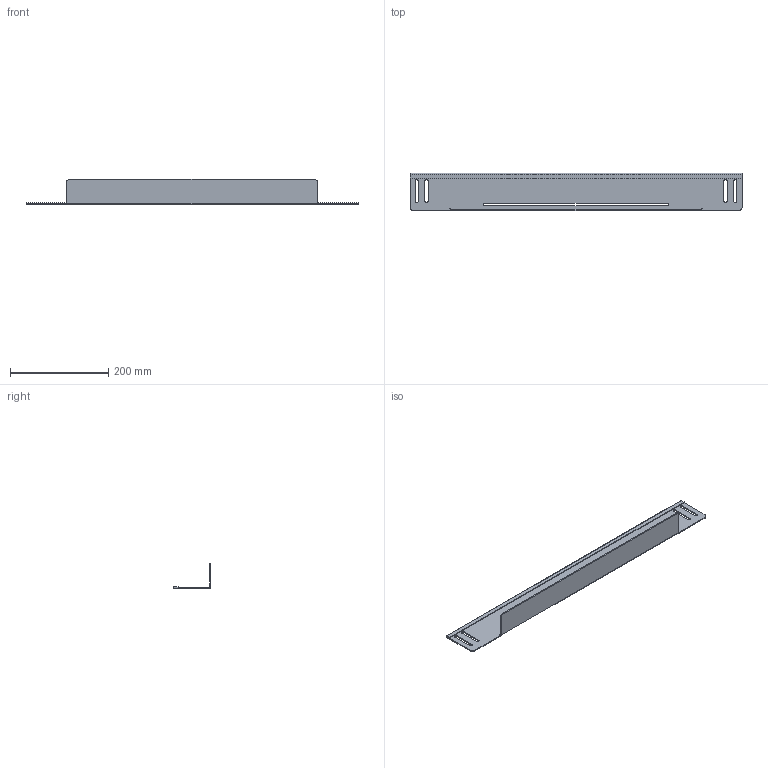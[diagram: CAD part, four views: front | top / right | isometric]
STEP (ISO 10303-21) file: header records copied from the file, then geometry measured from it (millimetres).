
FILE_DESCRIPTION((''),'2;1');
FILE_NAME('2450-363','2014-12-18T',('mboehnle'),('Keithley Instruments, Inc'),'PRO/ENGINEER BY PARAMETRIC TECHNOLOGY CORPORATION, 2012480','PRO/ENGINEER BY PARAMETRIC TECHNOLOGY CORPORATION, 2012480','');
FILE_SCHEMA(('CONFIG_CONTROL_DESIGN'));
Length unit declared in the file: inch
Products named in the file (1): 2450-363
Bounding box: 676.15 x 76.2 x 51.56 mm (x, y, z)
Volume: 176829.6 mm3; surface area: 153829.2 mm2
Topology: 1 solids, 1 shells, 44 faces, 126 edges, 84 vertices
Faces by surface type: plane 25, cylinder 19
Entity records: 1508 total; most frequent: CARTESIAN_POINT 254, DIRECTION 252, ORIENTED_EDGE 252, EDGE_CURVE 126, VECTOR 88, LINE 88, VERTEX_POINT 84, AXIS2_PLACEMENT_3D 82
